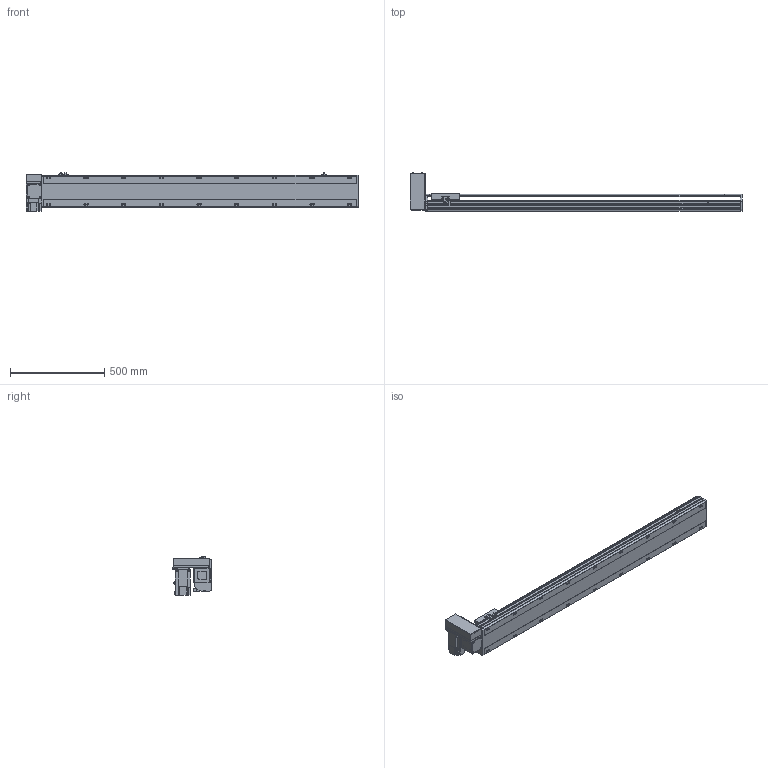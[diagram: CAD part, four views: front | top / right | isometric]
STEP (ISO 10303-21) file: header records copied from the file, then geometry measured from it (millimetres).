
FILE_DESCRIPTION(/* description */ ('STEP AP214'),/* implementation_level */ '2;1');
FILE_NAME(/* name */ 'PBS170-P40-S1400-RU-T75-C1-N(0)',/* time_stamp */ '2022-06-08T07:58:37+02:00',/* author */ ('License CC BY-ND 4.0'),/* organization */ ('CADENAS'),/* preprocessor_version */ 'ST-DEVELOPER v18.102',/* originating_system */ 'PARTsolutions',/* authorisation */ ' ');
FILE_SCHEMA (('AUTOMOTIVE_DESIGN {1 0 10303 214 3 1 1}'));
Length unit declared in the file: millimetre
Products named in the file (7): PBS170-P40-S1400-RU-T75-C1-N(0); PBS170_sensor; PBS170_plant; PBS170_sliser; T75-p1; PBS170T-RU_motors; PBS170-S1400()_body
Assembly tree (8 placements, depth 2):
  PBS170-P40-S1400-RU-T75-C1-N(0)
    PBS170_sensor  x3
    PBS170_plant
    PBS170_sliser
    T75-p1
    PBS170T-RU_motors
    PBS170-S1400()_body
Bounding box: 1763 x 206 x 205.3 mm (x, y, z)
Volume: 13842784.9 mm3; surface area: 1783161.1 mm2
Topology: 8 solids, 8 shells, 1098 faces, 2915 edges, 1900 vertices
Faces by surface type: plane 693, cylinder 347, cone 48, sphere 8, torus 2
Full cylindrical faces by diameter (mm): 3.242 x4, 4 x2, 4.4 x4, 4.5 x6, 4.917 x4, 6 x9, 6.647 x26, 7 x2, 7.5 x4, 8 x8, 8.5 x18, 10 x4, 10.5 x18, 11 x2, 30 x2, 40 x1, 70 x1
Entity records: 31576 total; most frequent: CARTESIAN_POINT 5825, DIRECTION 5370, ORIENTED_EDGE 5088, EDGE_CURVE 2544, AXIS2_PLACEMENT_3D 1867, VERTEX_POINT 1754, LINE 1636, VECTOR 1636
